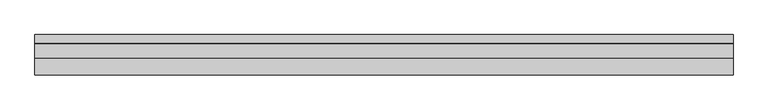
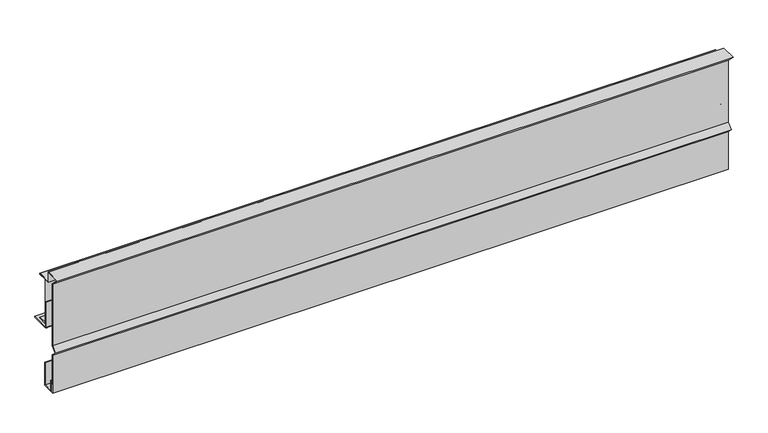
"""IFC4 building model written with IfcOpenShell, lengths in millimetres: proxy geometry, АК9_1 верх Обрамление проема под монтаж рулонных ворот : АК9_1 верх Обрамление проема под монтаж рулонных ворот."""

from ifc_helpers import new_model, si_unit, point, frame, frame_2d, origin, place, context, project, spatial, polyline, circle_curve, trimmed, segment, composite_curve, outline, extrude, source, transform, mapped, element, save


def generic_models_505cef03(model_context):
    return source(origin(), model_context, "Body", "SweptSolid", [
        extrude(outline(polyline([(-12.0265261, -310.0), (-42.0265261, -310.0), (-42.0265261, -280.0), (-40.0265261, -280.0), (-40.0265261, -308.0), (-14.0265261, -308.0), (-14.0265261, -250.0), (-12.0265261, -250.0), (-12.0265261, -310.0)])), frame((0.0, 0.0, 0.0), z_axis=(1.0, 0.0, 0.0), x_axis=(0.0, 1.0, 0.0)), (0.0, 0.0, 1.0), 1695.0),
        extrude(outline(polyline([(6.9998693, -25.4999311), (6.9998693, -26.4999311), (-29.0001307, -26.4999311), (-29.0001307, -0.9999311), (-65.5859171, -0.9999311), (-45.7869273, -20.798921), (-45.7869273, -184.9583694), (-58.1006358, -197.2720779), (-45.7869273, -209.5857864), (-45.7869273, -309.0), (-44.7869273, -309.0), (-44.7869273, -290.0), (-43.7869273, -290.0), (-43.7869273, -310.0), (-46.7869273, -310.0), (-46.7869273, -210.0), (-59.5148493, -197.2720779), (-46.7869273, -184.5441559), (-46.7869273, -21.2131346), (-68.0001307, 6.89e-05), (-28.0001307, 6.89e-05), (-28.0001307, -25.4999311), (6.9998693, -25.4999311)])), frame((0.0, 0.0, 0.0), z_axis=(1.0, 0.0, 0.0), x_axis=(0.0, 1.0, 0.0)), (0.0, 0.0, 1.0), 1695.0),
        extrude(outline(polyline([(-16.1295622, -26.5), (8.8704378, -26.5), (8.8704378, -28.5), (-14.1295622, -28.5), (-14.1295622, -142.5), (8.8704378, -142.5), (8.8704378, -144.5), (-16.1295622, -144.5), (-16.1295622, -26.5)])), frame((0.0, 0.0, 0.0), z_axis=(1.0, 0.0, 0.0), x_axis=(0.0, 1.0, 0.0)), (0.0, 0.0, 1.0), 1695.0),
        extrude(outline(composite_curve([segment(polyline([(29.8704378, -153.0), (29.8704378, -155.0), (-16.1295622, -155.0)]), True, "CONTINUOUS"), segment(trimmed(circle_curve(frame_2d((-16.1295622, -151.0)), 4.0), [point((-16.1295622, -155.0))], [point((-20.1295622, -151.0))], False, "CARTESIAN"), True, "CONTINUOUS"), segment(polyline([(-20.1295622, -151.0), (-20.1295622, -85.0), (-18.1295622, -85.0), (-18.1295622, -151.0)]), True, "CONTINUOUS"), segment(trimmed(circle_curve(frame_2d((-16.1295622, -151.0)), 2.0), [point((-18.1295622, -151.0))], [point((-16.1295622, -153.0))], True, "CARTESIAN"), True, "CONTINUOUS"), segment(polyline([(-16.1295622, -153.0), (29.8704378, -153.0)]), True, "CONTINUOUS")], self_intersect=False)), frame((0.0, 0.0, 0.0), z_axis=(1.0, 0.0, 0.0), x_axis=(0.0, 1.0, 0.0)), (0.0, 0.0, 1.0), 1695.0),
    ])


if __name__ == "__main__":
    model = new_model("IFC4")
    model_context = context("Model", 3, world=origin())
    ifc_project = project(units=[si_unit("LENGTHUNIT", "METRE", prefix="MILLI")], contexts=[model_context])
    site = spatial("IfcSite", under=ifc_project)
    building = spatial("IfcBuilding", under=site)
    placement = place(None, origin())
    generic_models_shape = generic_models_505cef03(model_context)
    element("IfcBuildingElementProxy", 1, Name="АК9_1 верх Обрамление проема под монтаж рулонных ворот : АК9_1 верх Обрамление проема под монтаж рулонных ворот", ObjectType="АК9_1 верх Обрамление проема под монтаж рулонных ворот : АК9_1 верх Обрамление проема под монтаж рулонных ворот", at=placement, inside=building, context=model_context, shape_type="MappedRepresentation", body=[
        mapped(generic_models_shape, transform((0.0, 0.0, 0.0), x_axis=(1.0, 0.0, 0.0), y_axis=(0.0, 1.0, 0.0), z_axis=(0.0, 0.0, 1.0))),
    ])
    save(model, "model.ifc")
